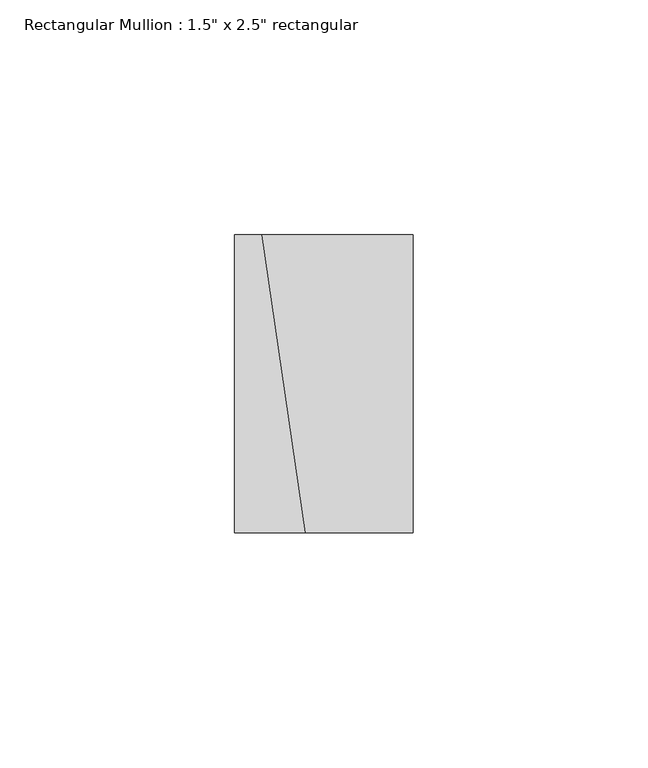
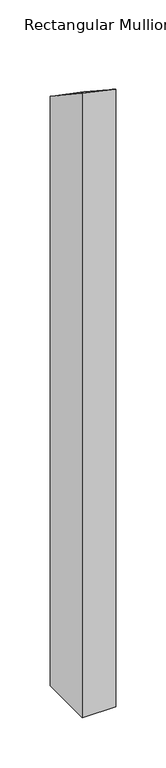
"""IFC4 building model written with IfcOpenShell, lengths in millimetres: member geometry."""

from ifc_helpers import new_model, si_unit, origin, place, context, project, spatial, faceted_brep, source, transform, mapped, element, save


def member_b3abe098(model_context):
    return source(origin(), model_context, "Body", "Brep", [
        faceted_brep([(19.05, 31.75, -770.337447), (19.05, -31.75, -770.337447), (-19.05, -31.75, -770.337447), (-19.05, 31.75, -770.337447), (-19.05, 31.75, -55.101336), (-13.221638, 31.75, -56.6113605), (19.05, 31.75, -63.3337135), (-19.05, -31.75, -12.9822679), (19.05, -31.75, -21.6856356), (-3.9459504, -31.75, -16.8954573)], [[[0, 1, 2, 3]], [[4, 5, 6, 0, 3]], [[7, 4, 3, 2]], [[8, 9, 7, 2, 1]], [[6, 8, 1, 0]], [[6, 5, 9, 8]], [[5, 4, 7, 9]]]),
    ])


if __name__ == "__main__":
    model = new_model("IFC4")
    model_context = context("Model", 3, world=origin())
    ifc_project = project(units=[si_unit("LENGTHUNIT", "METRE", prefix="MILLI")], contexts=[model_context])
    site = spatial("IfcSite", under=ifc_project)
    building = spatial("IfcBuilding", under=site)
    placement = place(None, origin())
    member_shape = member_b3abe098(model_context)
    element("IfcMember", 1, ObjectType="Rectangular Mullion : 1.5\" x 2.5\" rectangular", at=placement, inside=building, context=model_context, shape_type="MappedRepresentation", body=[
        mapped(member_shape, transform((0.0, 0.0, 0.0), x_axis=(1.0, 0.0, 0.0), y_axis=(0.0, 1.0, 0.0), z_axis=(0.0, 0.0, 1.0))),
    ])
    save(model, "model.ifc")
